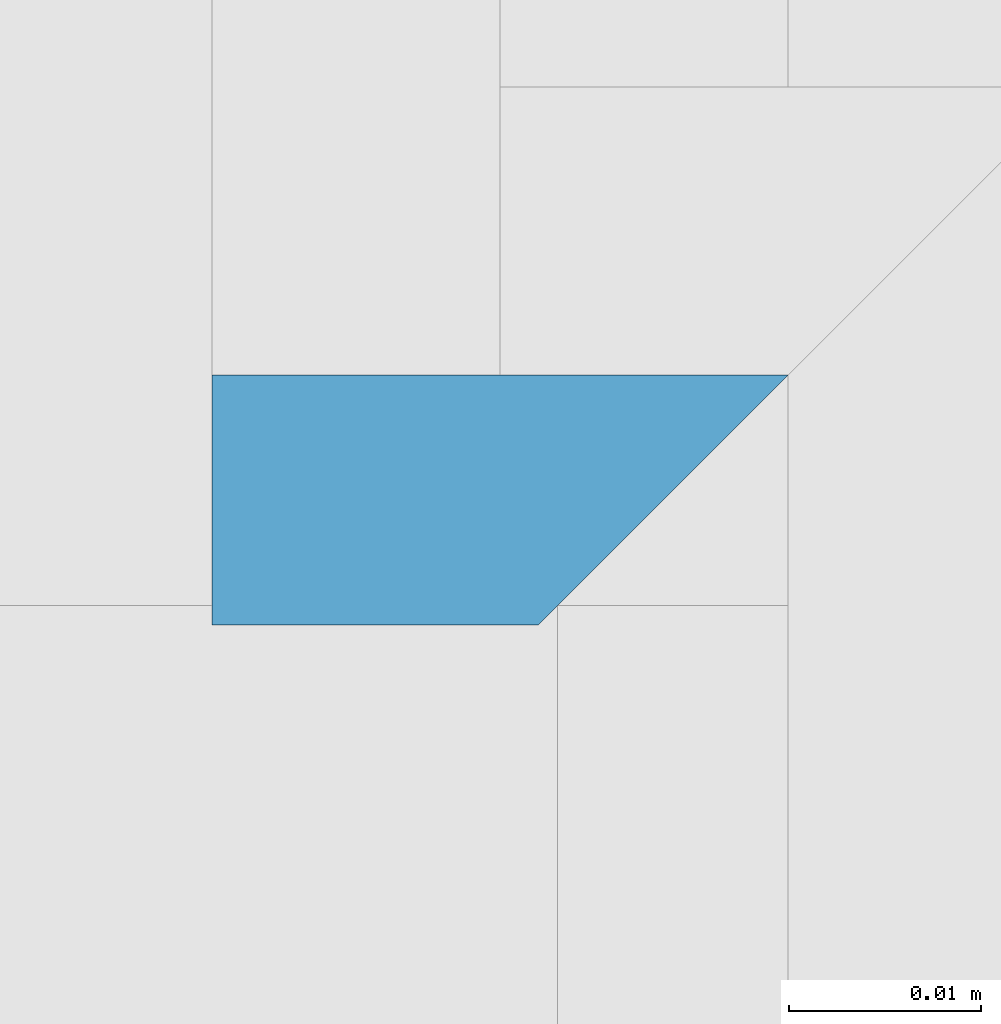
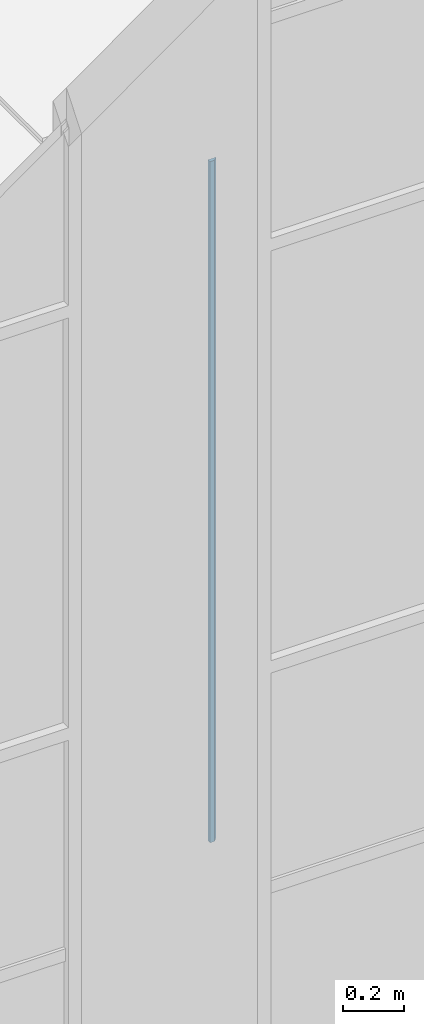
# One storey, part 6 of 169: 1 wall.
"""IFC2X3 building model written with IfcOpenShell, lengths in metres."""

from ifc_helpers import new_model, entity, si_unit, converted_unit, derived_unit, money_unit, direction, frame, origin_with_axes, place, context, subcontext, project, spatial, polyline, outline, extrude, material, layer, layer_set, layer_usage, type_object, element, save


model = new_model("IFC2X3")

# Units and contexts
model_context = context("Model", 3, precision=1e-05, world=origin_with_axes(), true_north=direction((0.0, 1.0)))
body_context = subcontext(model_context, "Body", "Model", "MODEL_VIEW", scale=1.0)
ifc_project = project(units=[si_unit("LENGTHUNIT", "METRE"), si_unit("AREAUNIT", "SQUARE_METRE"), si_unit("VOLUMEUNIT", "CUBIC_METRE"), si_unit("ABSORBEDDOSEUNIT", "GRAY"), si_unit("AMOUNTOFSUBSTANCEUNIT", "MOLE"), si_unit("DOSEEQUIVALENTUNIT", "SIEVERT"), si_unit("ELECTRICCAPACITANCEUNIT", "FARAD"), si_unit("ELECTRICCHARGEUNIT", "COULOMB"), si_unit("ELECTRICCONDUCTANCEUNIT", "SIEMENS"), si_unit("ELECTRICCURRENTUNIT", "AMPERE"), si_unit("ELECTRICRESISTANCEUNIT", "OHM"), si_unit("ELECTRICVOLTAGEUNIT", "VOLT"), si_unit("ENERGYUNIT", "JOULE"), si_unit("FORCEUNIT", "NEWTON"), si_unit("FREQUENCYUNIT", "HERTZ"), si_unit("ILLUMINANCEUNIT", "LUX"), si_unit("INDUCTANCEUNIT", "HENRY"), si_unit("LUMINOUSFLUXUNIT", "LUMEN"), si_unit("LUMINOUSINTENSITYUNIT", "CANDELA"), si_unit("MAGNETICFLUXDENSITYUNIT", "TESLA"), si_unit("MAGNETICFLUXUNIT", "WEBER"), si_unit("MASSUNIT", "GRAM"), converted_unit("PLANEANGLEUNIT", "degree", entity("IfcReal", 0.0174532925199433), si_unit("PLANEANGLEUNIT", "RADIAN"), dimensions=[0, 0, 0, 0, 0, 0, 0]), si_unit("POWERUNIT", "WATT"), si_unit("PRESSUREUNIT", "PASCAL"), si_unit("RADIOACTIVITYUNIT", "BECQUEREL"), si_unit("SOLIDANGLEUNIT", "STERADIAN"), si_unit("THERMODYNAMICTEMPERATUREUNIT", "KELVIN"), si_unit("TIMEUNIT", "SECOND"), derived_unit("ACCELERATIONUNIT", [(si_unit("LENGTHUNIT", "METRE"), 1), (si_unit("TIMEUNIT", "SECOND"), -2)]), derived_unit("ANGULARVELOCITYUNIT", [(converted_unit("PLANEANGLEUNIT", "degree", entity("IfcReal", 0.0174532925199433), si_unit("PLANEANGLEUNIT", "RADIAN"), dimensions=[0, 0, 0, 0, 0, 0, 0]), 1), (si_unit("TIMEUNIT", "SECOND"), -1)]), derived_unit("CURVATUREUNIT", [(converted_unit("PLANEANGLEUNIT", "degree", entity("IfcReal", 0.0174532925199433), si_unit("PLANEANGLEUNIT", "RADIAN"), dimensions=[0, 0, 0, 0, 0, 0, 0]), 1), (si_unit("LENGTHUNIT", "METRE"), -1)]), derived_unit("DYNAMICVISCOSITYUNIT", [(si_unit("PRESSUREUNIT", "PASCAL"), 1), (si_unit("TIMEUNIT", "SECOND"), 1)]), derived_unit("HEATFLUXDENSITYUNIT", [(si_unit("POWERUNIT", "WATT"), 1), (si_unit("LENGTHUNIT", "METRE"), -2)]), derived_unit("HEATINGVALUEUNIT", [(si_unit("ENERGYUNIT", "JOULE"), 1), (si_unit("MASSUNIT", "GRAM"), -1)]), derived_unit("INTEGERCOUNTRATEUNIT", [(si_unit("TIMEUNIT", "SECOND"), -1)]), derived_unit("IONCONCENTRATIONUNIT", [(si_unit("MASSUNIT", "GRAM"), 1), (si_unit("VOLUMEUNIT", "CUBIC_METRE"), -1)]), derived_unit("ISOTHERMALMOISTURECAPACITYUNIT", [(si_unit("VOLUMEUNIT", "CUBIC_METRE"), 1), (si_unit("MASSUNIT", "GRAM"), -1)]), derived_unit("KINEMATICVISCOSITYUNIT", [(si_unit("AREAUNIT", "SQUARE_METRE"), 1), (si_unit("TIMEUNIT", "SECOND"), -1)]), derived_unit("LINEARFORCEUNIT", [(si_unit("FORCEUNIT", "NEWTON"), 1), (si_unit("LENGTHUNIT", "METRE"), -1)]), derived_unit("LINEARMOMENTUNIT", [(si_unit("FORCEUNIT", "NEWTON"), 1), (si_unit("LENGTHUNIT", "METRE"), -1)]), derived_unit("LINEARSTIFFNESSUNIT", [(si_unit("FORCEUNIT", "NEWTON"), 1), (si_unit("LENGTHUNIT", "METRE"), -1)]), derived_unit("LINEARVELOCITYUNIT", [(si_unit("LENGTHUNIT", "METRE"), 1), (si_unit("TIMEUNIT", "SECOND"), -1)]), derived_unit("LUMINOUSINTENSITYDISTRIBUTIONUNIT", [(si_unit("LUMINOUSINTENSITYUNIT", "CANDELA"), 1), (si_unit("LUMINOUSFLUXUNIT", "LUMEN"), -1)]), derived_unit("MASSDENSITYUNIT", [(si_unit("MASSUNIT", "GRAM"), 1), (si_unit("VOLUMEUNIT", "CUBIC_METRE"), -1)]), derived_unit("MASSFLOWRATEUNIT", [(si_unit("MASSUNIT", "GRAM"), 1), (si_unit("TIMEUNIT", "SECOND"), -1)]), derived_unit("MASSPERLENGTHUNIT", [(si_unit("MASSUNIT", "GRAM"), 1), (si_unit("LENGTHUNIT", "METRE"), -1)]), derived_unit("MODULUSOFELASTICITYUNIT", [(si_unit("FORCEUNIT", "NEWTON"), 1), (si_unit("AREAUNIT", "SQUARE_METRE"), -1)]), derived_unit("MODULUSOFLINEARSUBGRADEREACTIONUNIT", [(si_unit("FORCEUNIT", "NEWTON"), 1), (si_unit("LENGTHUNIT", "METRE"), -2)]), derived_unit("MODULUSOFROTATIONALSUBGRADEREACTIONUNIT", [(si_unit("FORCEUNIT", "NEWTON"), 1), (si_unit("LENGTHUNIT", "METRE"), 1)]), derived_unit("MODULUSOFSUBGRADEREACTIONUNIT", [(si_unit("FORCEUNIT", "NEWTON"), 1), (si_unit("VOLUMEUNIT", "CUBIC_METRE"), -1)]), derived_unit("MOISTUREDIFFUSIVITYUNIT", [(si_unit("VOLUMEUNIT", "CUBIC_METRE"), 1), (si_unit("TIMEUNIT", "SECOND"), -1)]), derived_unit("MOLECULARWEIGHTUNIT", [(si_unit("MASSUNIT", "GRAM"), 1), (si_unit("AMOUNTOFSUBSTANCEUNIT", "MOLE"), -1)]), derived_unit("PLANARFORCEUNIT", [(si_unit("FORCEUNIT", "NEWTON"), 1), (si_unit("LENGTHUNIT", "METRE"), -2)]), derived_unit("ROTATIONALFREQUENCYUNIT", [(si_unit("TIMEUNIT", "SECOND"), -1)]), derived_unit("ROTATIONALMASSUNIT", [(si_unit("MASSUNIT", "GRAM"), 1), (si_unit("LENGTHUNIT", "METRE"), 2)]), derived_unit("ROTATIONALSTIFFNESSUNIT", [(si_unit("FORCEUNIT", "NEWTON"), 1), (si_unit("LENGTHUNIT", "METRE"), 1), (converted_unit("PLANEANGLEUNIT", "degree", entity("IfcReal", 0.0174532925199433), si_unit("PLANEANGLEUNIT", "RADIAN"), dimensions=[0, 0, 0, 0, 0, 0, 0]), -1)]), derived_unit("SECTIONAREAINTEGRALUNIT", [(si_unit("LENGTHUNIT", "METRE"), 5)]), derived_unit("SECTIONMODULUSUNIT", [(si_unit("LENGTHUNIT", "METRE"), 3)]), derived_unit("SHEARMODULUSUNIT", [(si_unit("FORCEUNIT", "NEWTON"), 1), (si_unit("AREAUNIT", "SQUARE_METRE"), -1)]), derived_unit("SOUNDPOWERUNIT", [(si_unit("ENERGYUNIT", "JOULE"), 1), (si_unit("TIMEUNIT", "SECOND"), -1)]), derived_unit("SPECIFICHEATCAPACITYUNIT", [(si_unit("FORCEUNIT", "NEWTON"), 1), (si_unit("MASSUNIT", "GRAM"), -1), (si_unit("THERMODYNAMICTEMPERATUREUNIT", "KELVIN"), -1)]), derived_unit("TEMPERATUREGRADIENTUNIT", [(si_unit("THERMODYNAMICTEMPERATUREUNIT", "KELVIN"), 1), (si_unit("LENGTHUNIT", "METRE"), -1)]), derived_unit("THERMALADMITTANCEUNIT", [(si_unit("POWERUNIT", "WATT"), 1), (si_unit("AREAUNIT", "SQUARE_METRE"), -1), (si_unit("THERMODYNAMICTEMPERATUREUNIT", "KELVIN"), -1)]), derived_unit("THERMALCONDUCTANCEUNIT", [(si_unit("POWERUNIT", "WATT"), 1), (si_unit("LENGTHUNIT", "METRE"), -1), (si_unit("THERMODYNAMICTEMPERATUREUNIT", "KELVIN"), -1)]), derived_unit("THERMALEXPANSIONCOEFFICIENTUNIT", [(si_unit("THERMODYNAMICTEMPERATUREUNIT", "KELVIN"), -1)]), derived_unit("THERMALRESISTANCEUNIT", [(si_unit("AREAUNIT", "SQUARE_METRE"), 1), (si_unit("POWERUNIT", "WATT"), -1)]), derived_unit("THERMALTRANSMITTANCEUNIT", [(si_unit("POWERUNIT", "WATT"), 1), (si_unit("AREAUNIT", "SQUARE_METRE"), -1), (si_unit("THERMODYNAMICTEMPERATUREUNIT", "KELVIN"), -1)]), derived_unit("TORQUEUNIT", [(si_unit("FORCEUNIT", "NEWTON"), 1), (si_unit("LENGTHUNIT", "METRE"), 1)]), derived_unit("VAPORPERMEABILITYUNIT", [(si_unit("MASSUNIT", "GRAM"), 1), (si_unit("TIMEUNIT", "SECOND"), -1)]), derived_unit("VOLUMETRICFLOWRATEUNIT", [(si_unit("VOLUMEUNIT", "CUBIC_METRE"), 1), (si_unit("TIMEUNIT", "SECOND"), -1)]), derived_unit("WARPINGCONSTANTUNIT", [(si_unit("LENGTHUNIT", "METRE"), 6)]), derived_unit("WARPINGMOMENTUNIT", [(si_unit("FORCEUNIT", "NEWTON"), 1), (si_unit("LENGTHUNIT", "METRE"), 2)]), money_unit("GBP")], contexts=[model_context])

# Site, building, storey
site_placement = place(None, origin_with_axes())
site = spatial("IfcSite", under=ifc_project, at=site_placement, Name="Site", CompositionType="ELEMENT")
building_placement = place(site_placement, origin_with_axes())
building = spatial("IfcBuilding", under=site, at=building_placement, Name="Building01", CompositionType="ELEMENT")
storey_placement = place(building_placement, frame((0.0, 0.0, 5.15), z_axis=(0.0, 0.0, 1.0), x_axis=(1.0, 0.0, 0.0)))
storey = spatial("IfcBuildingStorey", under=building, at=storey_placement, Name="1F", CompositionType="ELEMENT", Elevation=5.15)

# Wall
ifc_material = material(Name="A_BSUK_WallInternal_Finishes_Plasterboard")
ifc_layer = layer(ifc_material, 0.013, ventilated=False)
ifc_layer_set = layer_set([ifc_layer])
ifc_layer_usage = layer_usage(ifc_layer_set, "AXIS2", "POSITIVE", 0.0)
wall_type = type_object("IfcWallType", Name="default", PredefinedType="NOTDEFINED")
wall_placement = place(storey_placement, frame((22.595, 0.305, 0.0), z_axis=(0.0, 0.0, 1.0), x_axis=(1.0, 0.0, 0.0)))
element("IfcWallStandardCase", 1, at=wall_placement, inside=storey, type_object=wall_type, material=ifc_layer_usage, Name="default", ObjectType="default", context=body_context, shape_type="SweptSolid", body=[
    extrude(outline(polyline([(0.03, 0.013), (0.0, 0.013), (0.0, 0.0), (0.017, 0.0), (0.03, 0.013)])), origin_with_axes(), (0.0, 0.0, 1.0), 2.74),
])

save(model, "model.ifc")
